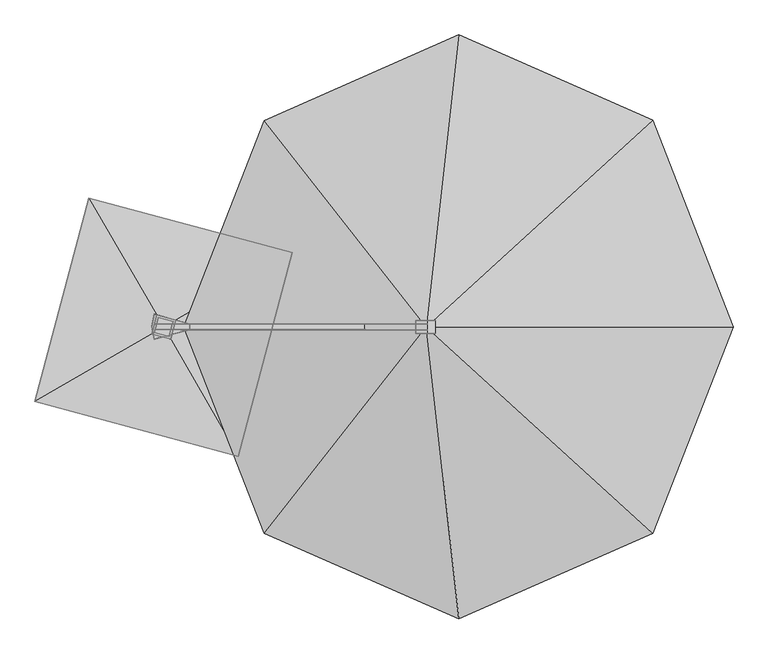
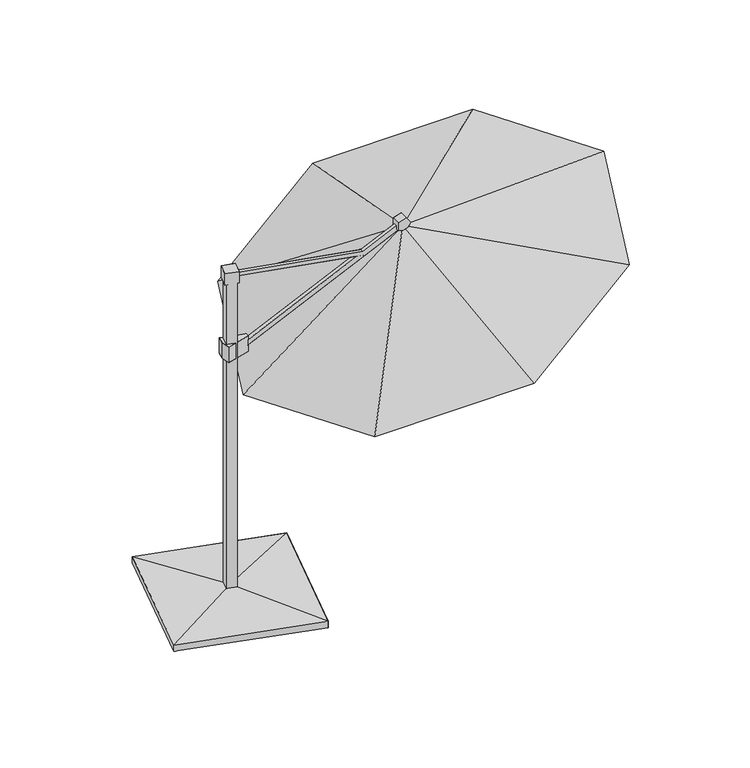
"""IFC4 building model written with IfcOpenShell, lengths in millimetres: geographic element geometry, Enscape AssetDefinition - Sunshade 001 : Enscape AssetDefinition - Sunshade 001."""

import ifcopenshell
import ifcopenshell.guid

model = None  # the IFC model being written
_history = None  # IfcOwnerHistory: only IFC2X3 demands one
_inside = {}  # id of a spatial element -> (the spatial element, [elements in it])
_under = {}  # id of a project, library or spatial element -> (it, [spatial elements below it])
_declared = {}  # id of a project -> (the project, [libraries it declares])
_typed = {}  # id of a type object -> (the type object, [elements of that type])
_made_of = {}  # id of a material, layer set ... -> (it, [elements and type objects made of it])


def new_model(schema):
    """Start an empty IFC model of exactly this schema.

    Asked for "IFC4X3", IfcOpenShell would pick the latest addendum, in which some entities
    have other attributes; the version numbers below select the first issue.
    IFC2X3 requires an IfcOwnerHistory on every rooted entity: one is made here for all.
    """
    global model, _history
    if schema == "IFC4X3":
        model = ifcopenshell.file(schema_version=(4, 3, 0, 0))
    else:
        model = ifcopenshell.file(schema=schema)
    _inside.clear()
    _under.clear()
    _declared.clear()
    _typed.clear()
    _made_of.clear()
    _history = None
    if model.schema == "IFC2X3":
        org = make("IfcOrganization", Name="unknown")
        user = make(
            "IfcPersonAndOrganization",
            ThePerson=make("IfcPerson", FamilyName="unknown"),
            TheOrganization=org,
        )
        app = make(
            "IfcApplication",
            ApplicationDeveloper=org,
            Version="unknown",
            ApplicationFullName="unknown",
            ApplicationIdentifier="unknown",
        )
        _history = make(
            "IfcOwnerHistory",
            OwningUser=user,
            OwningApplication=app,
            ChangeAction="ADDED",
            CreationDate=0,
        )
    return model


def make(cls, **values):
    """One entity of the class cls with the attributes given. An attribute that is None is left unset."""
    return model.create_entity(
        cls, **{name: value for name, value in values.items() if value is not None}
    )


def rooted(cls, **values):
    """An entity with a GlobalId (a new one), such as an element, a storey or a relation."""
    return make(cls, GlobalId=ifcopenshell.guid.new(), OwnerHistory=_history, **values)


def si_unit(unit_type, name, prefix=None):
    """IfcSIUnit, for example si_unit("LENGTHUNIT", "METRE", prefix="MILLI")."""
    return make("IfcSIUnit", UnitType=unit_type, Prefix=prefix, Name=name)


def assignment(units):
    """IfcUnitAssignment: the units of a project."""
    return None if units is None else make("IfcUnitAssignment", Units=units)


def point(xyz):
    """IfcCartesianPoint."""
    return None if xyz is None else make("IfcCartesianPoint", Coordinates=xyz)


def direction(xyz):
    """IfcDirection."""
    return None if xyz is None else make("IfcDirection", DirectionRatios=xyz)


def frame(location, z_axis=None, x_axis=None):
    """IfcAxis2Placement3D, a coordinate frame: its origin and axes. An axis left out is left unset."""
    return make(
        "IfcAxis2Placement3D",
        Location=point(location),
        Axis=direction(z_axis),
        RefDirection=direction(x_axis),
    )


def origin():
    """The frame at (0, 0, 0) with its axes left unset."""
    return frame((0.0, 0.0, 0.0))


def place(relative_to, where):
    """IfcLocalPlacement: puts the frame where relative to a parent placement (None: the world)."""
    return make(
        "IfcLocalPlacement", PlacementRelTo=relative_to, RelativePlacement=where
    )


def context(
    kind, dimensions, precision=None, world=None, true_north=None, identifier=None
):
    """IfcGeometricRepresentationContext, for example the 3D "Model" context."""
    return make(
        "IfcGeometricRepresentationContext",
        ContextIdentifier=identifier,
        ContextType=kind,
        CoordinateSpaceDimension=dimensions,
        Precision=precision,
        WorldCoordinateSystem=world,
        TrueNorth=true_north,
    )


def project(units=None, contexts=None):
    """IfcProject with its units and contexts."""
    return rooted(
        "IfcProject",
        Name="project",
        RepresentationContexts=contexts,
        UnitsInContext=assignment(units),
    )


def spatial(cls, under=None, at=None, **own):
    """A site, building, storey or space (cls), placed at a placement, below another one or the project."""
    s = rooted(cls, ObjectPlacement=at, **own)
    if under is not None:
        _under.setdefault(under.id(), (under, []))[1].append(s)
    return s


def point_list(points):
    """IfcCartesianPointList2D or 3D."""
    cls = (
        "IfcCartesianPointList2D" if len(points[0]) == 2 else "IfcCartesianPointList3D"
    )
    return make(cls, CoordList=points)


def triangles(points, corners, closed=None, point_numbers=None):
    """IfcTriangulatedFaceSet: each triangle names its three corners, points numbered from 1."""
    return make(
        "IfcTriangulatedFaceSet",
        Coordinates=point_list(points),
        Closed=closed,
        CoordIndex=corners,
        PnIndex=point_numbers,
    )


def shape(context_of_items, identifier, shape_type, items):
    """IfcShapeRepresentation: the items that make up one representation, for example the "Body"."""
    return make(
        "IfcShapeRepresentation",
        ContextOfItems=context_of_items,
        RepresentationIdentifier=identifier,
        RepresentationType=shape_type,
        Items=items,
    )


def source(mapping_origin, context_of_items, identifier, shape_type, items):
    """IfcRepresentationMap: a shape defined once, which mapped items show again and again."""
    return make(
        "IfcRepresentationMap",
        MappingOrigin=mapping_origin,
        MappedRepresentation=shape(context_of_items, identifier, shape_type, items),
    )


def transform(
    local_origin,
    x_axis=None,
    y_axis=None,
    z_axis=None,
    scale=None,
    scale2=None,
    scale3=None,
    uniform=True,
):
    """IfcCartesianTransformationOperator3D, or its non-uniform kind. x_axis, y_axis, z_axis: its Axis1, 2, 3."""
    if uniform:
        return make(
            "IfcCartesianTransformationOperator3D",
            Axis1=direction(x_axis),
            Axis2=direction(y_axis),
            LocalOrigin=point(local_origin),
            Scale=scale,
            Axis3=direction(z_axis),
        )
    return make(
        "IfcCartesianTransformationOperator3DnonUniform",
        Axis1=direction(x_axis),
        Axis2=direction(y_axis),
        LocalOrigin=point(local_origin),
        Scale=scale,
        Axis3=direction(z_axis),
        Scale2=scale2,
        Scale3=scale3,
    )


def mapped(mapping_source, mapping_target):
    """IfcMappedItem: shows the shape of a source again, moved by a transform."""
    return make(
        "IfcMappedItem", MappingSource=mapping_source, MappingTarget=mapping_target
    )


def made_of(thing, what):
    """Note that an element or type object is made of a material, layer set ...; save() writes the relation."""
    if what is not None:
        _made_of.setdefault(what.id(), (what, []))[1].append(thing)
    return thing


def element(
    cls,
    number,
    at=None,
    inside=None,
    cuts=None,
    type_object=None,
    material=None,
    context=None,
    identifier="Body",
    shape_type=None,
    held_by="IfcProductDefinitionShape",
    body=None,
    shapes=None,
    **own,
):
    """One element of the class cls, such as IfcWall. Its Tag is "e" and its number.

    at: its placement. inside: the storey or other place that contains it. cuts: it is an
    opening in that element (IfcRelVoidsElement). A single representation is given by context,
    identifier, shape_type and body (its items); several are given by shapes. held_by: the class
    of the entity that holds the representations. save() writes the other relations.
    """
    e = rooted(cls, Tag="e%d" % number, ObjectPlacement=at, **own)
    if body is not None:
        shapes = [shape(context, identifier, shape_type, body)]
    if shapes is not None:
        e.Representation = make(held_by, Representations=shapes)
    if inside is not None:
        _inside.setdefault(inside.id(), (inside, []))[1].append(e)
    if cuts is not None:
        rooted(
            "IfcRelVoidsElement", RelatingBuildingElement=cuts, RelatedOpeningElement=e
        )
    if type_object is not None:
        _typed.setdefault(type_object.id(), (type_object, []))[1].append(e)
    return made_of(e, material)


def aggregate(whole, parts):
    """IfcRelAggregates: a whole, such as a stair, and the parts it consists of."""
    return rooted("IfcRelAggregates", RelatingObject=whole, RelatedObjects=parts)


def save(model, path):
    """Write the relations noted so far, then the file.

    IfcRelAggregates (storeys below a building ...), IfcRelContainedInSpatialStructure (elements
    in a storey), IfcRelDefinesByType, IfcRelAssociatesMaterial and IfcRelDeclares: one each for
    every whole, place, type object, material and project.
    """
    for whole, parts in _under.values():
        aggregate(whole, parts)
    for where, things in _inside.values():
        rooted(
            "IfcRelContainedInSpatialStructure",
            RelatedElements=things,
            RelatingStructure=where,
        )
    for kind, things in _typed.values():
        rooted("IfcRelDefinesByType", RelatedObjects=things, RelatingType=kind)
    for what, things in _made_of.values():
        rooted("IfcRelAssociatesMaterial", RelatedObjects=things, RelatingMaterial=what)
    for by, libraries in _declared.values():
        rooted("IfcRelDeclares", RelatingContext=by, RelatedDefinitions=libraries)
    model.write(path)


def geographic_element_01e02b02(model_context):
    return source(origin(), model_context, "Body", "Tessellation", [
        triangles([(0.3290373, -1.1895963, 88.2832287), (368.926718, -640.255905, 49.0518615), (638.0032082, 367.6864958, 49.0518615), (638.0032082, 367.6864958, 0.0), (-368.5723429, 639.0915865, 0.0), (-368.5723429, 639.0915865, 49.0518615), (-636.1555738, -369.7872396, 0.0), (-636.1555738, -369.7872396, 49.0518615), (368.926718, -640.255905, 0.0), (27.5631999, -46.8751548, 2512.3765892), (27.5631999, -46.8751548, 63.0739117), (60.6440954, 33.941458, 2512.3765892), (-45.1793462, -27.2847831, 2512.3765892), (-45.1793462, -27.2847831, 63.0739117), (-25.8167677, 45.7108681, 63.0739117), (47.0270169, 26.0698749, 2512.3765892), (-33.7136648, 59.3785658, 2512.3765892), (-58.7964248, -35.1563661, 2512.3765892), (-25.8167677, 45.7108681, 2512.3765892), (47.0270169, 26.0698749, 63.0739117), (35.434783, -60.5175406, 2512.3765892), (60.6440954, 33.941458, 2601.0647804), (35.434783, -60.5175406, 2601.0647804), (-33.7136648, 59.3785658, 2601.0647804), (-58.7964248, -35.1563661, 2601.0647804), (-57.2018591, 0.7340061, 1906.1633011), (130.6277824, 15.3635085, 1906.1633011), (-45.4324512, 62.5170779, 1906.1633011), (-45.4324512, -61.0490671, 1906.1633011), (-45.4324512, -61.0490671, 2029.198233), (-57.2018591, 0.7340061, 2029.198233), (130.6277824, 15.3635085, 2029.198233), (-45.4324512, 62.5170779, 2029.198233), (130.6277824, -13.8954965, 2029.198233), (130.6277824, -13.8954965, 1906.1633011), (498.9470158, -1022.1668232, 1705.6784454), (101.0903684, 0.0, 1560.8768188), (1300.279208, 0.0, 2492.6594788), (1459.457428, -1445.5619099, 2055.2932972), (2419.9931293, -1022.1668232, 2404.8827145), (2817.8495132, 0.0, 2549.6841957), (2419.9931293, 1022.1668232, 2404.8827145), (1459.457428, 1445.5619099, 2055.2932972), (498.9470158, 1022.1668232, 1705.6784454), (1306.5562958, -14.5029495, 2500.100885), (1291.0156746, -14.5029495, 2534.1941528), (84.5119563, -14.5029495, 1979.893103), (1306.5562958, 15.2622668, 2500.100885), (100.0526411, -14.5029495, 1945.7996899), (100.0526411, 15.2622668, 1945.7996899), (84.5119563, 15.2622668, 1979.893103), (1291.0156746, 15.2622668, 2534.1941528), (1307.8724945, -31.8659919, 2467.1215027), (1247.8357521, -31.8659919, 2486.6357185), (1344.9777878, -31.8659919, 2518.1980362), (1247.8357521, -31.8659919, 2549.7603539), (1307.8724945, -31.8659919, 2569.2492805), (1307.8724945, 31.8153727, 2467.1215027), (1247.8357521, 31.8153727, 2486.6357185), (1247.8357521, 31.8153727, 2549.7603539), (1344.9777878, 31.8153727, 2518.1980362), (1307.8724945, 31.8153727, 2569.2492805), (-39.5857151, -13.1868007, 2550.2664276), (995.7679985, -13.1868007, 2368.7391357), (-34.700773, -13.1868007, 2577.5008118), (-34.700773, 13.5664582, 2577.5008118), (995.7679985, 13.5664582, 2368.7391357), (-39.5857151, 13.5664582, 2550.2664276), (1000.6276583, -13.1868007, 2395.9733746), (1000.6276583, 13.5664582, 2395.9733746)], [[69, 70, 66], [70, 67, 68], [68, 66, 70], [67, 64, 63], [63, 68, 67], [66, 65, 69], [64, 69, 65], [65, 63, 64], [61, 62, 57], [62, 61, 60], [61, 58, 60], [58, 59, 60], [62, 60, 56], [56, 57, 62], [57, 55, 61], [58, 61, 55], [57, 56, 55], [59, 58, 53], [55, 53, 58], [60, 59, 54], [54, 56, 60], [53, 54, 59], [56, 54, 55], [54, 53, 55], [46, 52, 51], [52, 48, 50], [50, 51, 52], [48, 45, 49], [49, 50, 48], [51, 47, 46], [45, 46, 47], [47, 49, 45], [43, 44, 38], [42, 43, 38], [41, 42, 38], [40, 41, 38], [39, 40, 38], [36, 39, 38], [44, 37, 38], [37, 36, 38], [32, 34, 35], [30, 34, 32], [30, 32, 31], [32, 33, 31], [29, 30, 31], [34, 30, 29], [29, 35, 34], [33, 32, 27], [35, 27, 32], [29, 27, 35], [27, 28, 33], [31, 26, 29], [33, 28, 26], [26, 31, 33], [29, 26, 27], [26, 28, 27], [23, 22, 24], [23, 24, 25], [25, 24, 17], [17, 18, 25], [23, 25, 18], [22, 23, 21], [18, 21, 23], [12, 17, 24], [24, 22, 12], [21, 12, 22], [17, 12, 16], [16, 20, 15], [18, 17, 19], [16, 19, 17], [15, 19, 16], [19, 15, 14], [19, 13, 18], [21, 18, 13], [14, 13, 19], [12, 21, 10], [10, 16, 12], [13, 10, 21], [20, 16, 10], [10, 11, 20], [13, 14, 11], [11, 10, 13], [7, 9, 2], [5, 7, 8], [2, 8, 7], [8, 6, 5], [4, 5, 6], [6, 3, 4], [3, 2, 9], [9, 4, 3], [1, 8, 2], [6, 8, 1], [2, 3, 1], [1, 3, 6]], closed=False),
    ])


if __name__ == "__main__":
    model = new_model("IFC4")
    model_context = context("Model", 3, world=origin())
    ifc_project = project(units=[si_unit("LENGTHUNIT", "METRE", prefix="MILLI")], contexts=[model_context])
    site = spatial("IfcSite", under=ifc_project)
    building = spatial("IfcBuilding", under=site)
    placement = place(None, origin())
    geographic_element_shape = geographic_element_01e02b02(model_context)
    element("IfcGeographicElement", 1, ObjectType="Enscape AssetDefinition - Sunshade 001 : Enscape AssetDefinition - Sunshade 001", at=placement, inside=building, context=model_context, shape_type="MappedRepresentation", body=[
        mapped(geographic_element_shape, transform((0.0, 0.0, 0.0), x_axis=(1.0, 0.0, 0.0), y_axis=(0.0, 1.0, 0.0), z_axis=(0.0, 0.0, 1.0))),
    ])
    save(model, "model.ifc")
